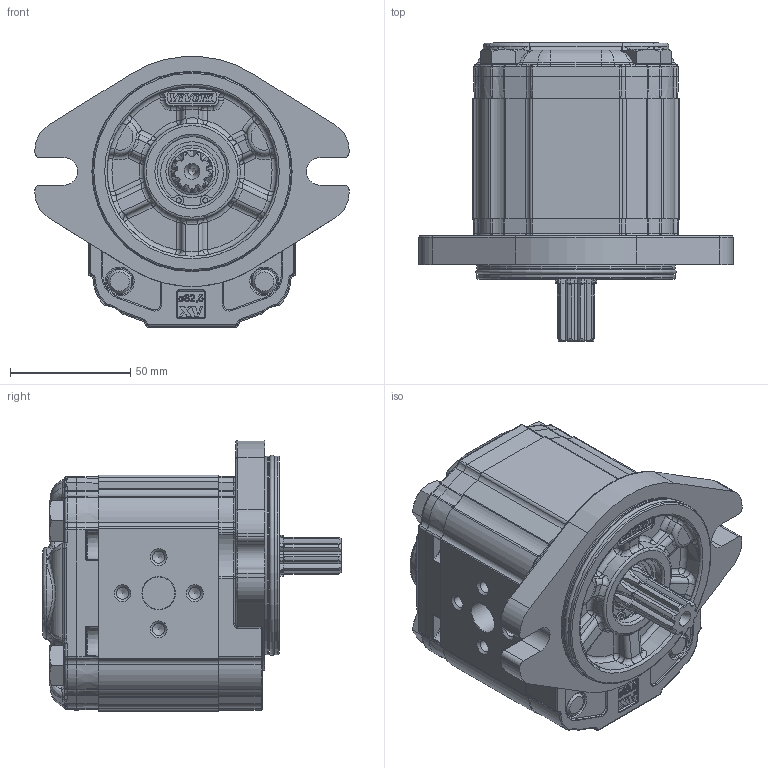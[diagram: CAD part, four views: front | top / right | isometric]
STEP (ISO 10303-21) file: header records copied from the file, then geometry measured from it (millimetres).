
FILE_DESCRIPTION(/* description */ ('Unknown'),/* implementation_level */ '2;1');
FILE_NAME(/* name */ 'X2R4331IOOF',/* time_stamp */ '2021-04-26T12:43:43+02:00',/* author */ ('Unknown'),/* organization */ ('Unknown'),/* preprocessor_version */ 'ST-DEVELOPER v16.7',/* originating_system */ 'Solid Edge',/* authorisation */ 'Unknown');
FILE_SCHEMA (('AUTOMOTIVE_DESIGN {1 0 10303 214 3 1 1}'));
Products named in the file (5): X2R4331IOOF; X2R31; 2I; X2OOH50; XR219-F
Assembly tree (4 placements, depth 2):
  X2R4331IOOF
    X2R31
    2I
    X2OOH50
    XR219-F
Bounding box: 130.38 x 123.7 x 112.3 mm (x, y, z)
Volume: 681786.9 mm3; surface area: 111625.8 mm2
Topology: 4 solids, 5 shells, 2134 faces, 5264 edges, 3209 vertices
Faces by surface type: cylinder 636, plane 574, bspline 513, torus 257, cone 116, sphere 38
Full cylindrical faces by diameter (mm): 2 x2, 4.917 x4, 5 x4, 10 x4, 10.5 x4, 11 x2, 11.5 x4, 13.5 x2, 16 x4, 17.42 x1, 17.48 x2, 18.724 x1, 20.595 x1, 21.741 x1, 25.834 x1, 28.56 x1, 28.57 x1, 28.8 x1, 30.4 x1, 79.6 x2, 82.5 x2
Entity records: 88275 total; most frequent: CARTESIAN_POINT 28287, ORIENTED_EDGE 10122, DIRECTION 8540, EDGE_CURVE 5061, AXIS2_PLACEMENT_3D 3258, VERTEX_POINT 3145, FACE_BOUND 2352, EDGE_LOOP 2342
